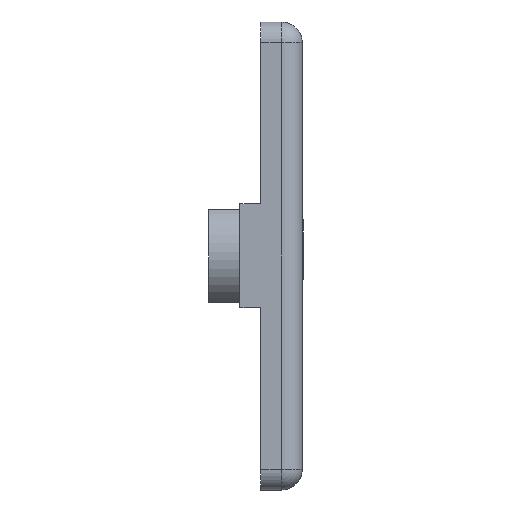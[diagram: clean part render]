
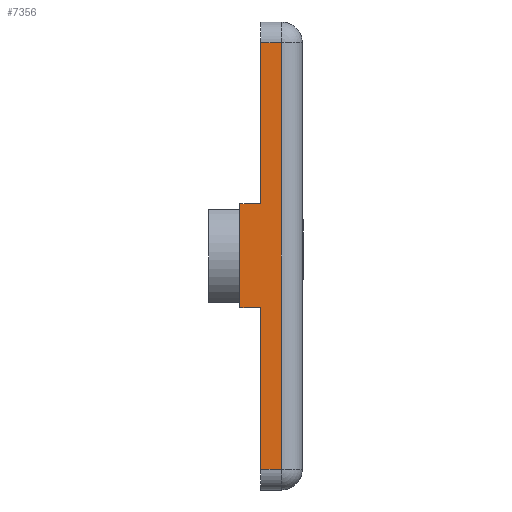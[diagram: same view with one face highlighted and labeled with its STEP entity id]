
A CAD part, left-side view. The second image highlights one B-rep face of the part: STEP entity #7356.
In plain terms, the highlighted planar face has unit normal (-1, 0, 0).
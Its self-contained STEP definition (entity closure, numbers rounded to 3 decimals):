
#56 = ORIENTED_EDGE ( 'NONE', *, *, #1389, .T. ) ;
#71 = DIRECTION ( 'NONE',  ( 0., 0., 1. ) ) ;
#282 = LINE ( 'NONE', #4797, #7182 ) ;
#400 = LINE ( 'NONE', #3954, #4058 ) ;
#500 = EDGE_CURVE ( 'NONE', #7240, #3257, #282, .T. ) ;
#506 = DIRECTION ( 'NONE',  ( 0., 0., -1. ) ) ;
#609 = VECTOR ( 'NONE', #1550, 1000. ) ;
#619 = CARTESIAN_POINT ( 'NONE',  ( -45., 4., -20.5 ) ) ;
#686 = CARTESIAN_POINT ( 'NONE',  ( -45., 6., 5. ) ) ;
#798 = CARTESIAN_POINT ( 'NONE',  ( -45., 4., -20.5 ) ) ;
#959 = CARTESIAN_POINT ( 'NONE',  ( -45., 4., 20.5 ) ) ;
#968 = ORIENTED_EDGE ( 'NONE', *, *, #1625, .F. ) ;
#1143 = LINE ( 'NONE', #2355, #7634 ) ;
#1154 = DIRECTION ( 'NONE',  ( 0., 0., 1. ) ) ;
#1389 = EDGE_CURVE ( 'NONE', #3986, #1393, #8030, .T. ) ;
#1393 = VERTEX_POINT ( 'NONE', #5161 ) ;
#1550 = DIRECTION ( 'NONE',  ( 0., 0., 1. ) ) ;
#1574 = CARTESIAN_POINT ( 'NONE',  ( -45., 6., -5. ) ) ;
#1625 = EDGE_CURVE ( 'NONE', #2386, #3496, #400, .T. ) ;
#1935 = DIRECTION ( 'NONE',  ( 0., -1., 0. ) ) ;
#2093 = EDGE_CURVE ( 'NONE', #3986, #3257, #5971, .T. ) ;
#2101 = VERTEX_POINT ( 'NONE', #686 ) ;
#2197 = CARTESIAN_POINT ( 'NONE',  ( -45., 4., -20.5 ) ) ;
#2355 = CARTESIAN_POINT ( 'NONE',  ( -45., 6., 5. ) ) ;
#2386 = VERTEX_POINT ( 'NONE', #6994 ) ;
#2453 = PLANE ( 'NONE',  #5113 ) ;
#2463 = LINE ( 'NONE', #1574, #4174 ) ;
#2576 = CARTESIAN_POINT ( 'NONE',  ( -45., 2., 20.5 ) ) ;
#3136 = VECTOR ( 'NONE', #1154, 1000. ) ;
#3228 = EDGE_CURVE ( 'NONE', #2101, #2386, #1143, .T. ) ;
#3257 = VERTEX_POINT ( 'NONE', #8234 ) ;
#3431 = ORIENTED_EDGE ( 'NONE', *, *, #6455, .T. ) ;
#3496 = VERTEX_POINT ( 'NONE', #959 ) ;
#3614 = CARTESIAN_POINT ( 'NONE',  ( -45., 6., -5. ) ) ;
#3725 = CARTESIAN_POINT ( 'NONE',  ( -45., 2., -20.5 ) ) ;
#3735 = FACE_OUTER_BOUND ( 'NONE', #7637, .T. ) ;
#3851 = ORIENTED_EDGE ( 'NONE', *, *, #3228, .F. ) ;
#3954 = CARTESIAN_POINT ( 'NONE',  ( -45., 4., -20.5 ) ) ;
#3986 = VERTEX_POINT ( 'NONE', #2197 ) ;
#4058 = VECTOR ( 'NONE', #71, 1000. ) ;
#4117 = DIRECTION ( 'NONE',  ( 0., -1., 0. ) ) ;
#4174 = VECTOR ( 'NONE', #5462, 1000. ) ;
#4408 = DIRECTION ( 'NONE',  ( 1., 0., 0. ) ) ;
#4797 = CARTESIAN_POINT ( 'NONE',  ( -45., 6., -5. ) ) ;
#4957 = DIRECTION ( 'NONE',  ( 0., -1., 0. ) ) ;
#5011 = ORIENTED_EDGE ( 'NONE', *, *, #8037, .F. ) ;
#5113 = AXIS2_PLACEMENT_3D ( 'NONE', #8294, #4408, #506 ) ;
#5161 = CARTESIAN_POINT ( 'NONE',  ( -45., 2., -20.5 ) ) ;
#5256 = ORIENTED_EDGE ( 'NONE', *, *, #500, .T. ) ;
#5424 = VECTOR ( 'NONE', #8171, 1000. ) ;
#5462 = DIRECTION ( 'NONE',  ( 0., 0., 1. ) ) ;
#5683 = EDGE_CURVE ( 'NONE', #7240, #2101, #2463, .T. ) ;
#5971 = LINE ( 'NONE', #798, #609 ) ;
#5988 = VERTEX_POINT ( 'NONE', #2576 ) ;
#6296 = VECTOR ( 'NONE', #1935, 1000. ) ;
#6455 = EDGE_CURVE ( 'NONE', #1393, #5988, #7918, .T. ) ;
#6994 = CARTESIAN_POINT ( 'NONE',  ( -45., 4., 5. ) ) ;
#7139 = LINE ( 'NONE', #7502, #5424 ) ;
#7182 = VECTOR ( 'NONE', #4117, 1000. ) ;
#7240 = VERTEX_POINT ( 'NONE', #3614 ) ;
#7356 = ADVANCED_FACE ( 'NONE', ( #3735 ), #2453, .F. ) ;
#7502 = CARTESIAN_POINT ( 'NONE',  ( -45., 4., 20.5 ) ) ;
#7634 = VECTOR ( 'NONE', #4957, 1000. ) ;
#7637 = EDGE_LOOP ( 'NONE', ( #56, #3431, #5011, #968, #3851, #8314, #5256, #8403 ) ) ;
#7918 = LINE ( 'NONE', #3725, #3136 ) ;
#8030 = LINE ( 'NONE', #619, #6296 ) ;
#8037 = EDGE_CURVE ( 'NONE', #3496, #5988, #7139, .T. ) ;
#8171 = DIRECTION ( 'NONE',  ( 0., -1., 0. ) ) ;
#8234 = CARTESIAN_POINT ( 'NONE',  ( -45., 4., -5. ) ) ;
#8294 = CARTESIAN_POINT ( 'NONE',  ( -45., 4., -20.5 ) ) ;
#8314 = ORIENTED_EDGE ( 'NONE', *, *, #5683, .F. ) ;
#8403 = ORIENTED_EDGE ( 'NONE', *, *, #2093, .F. ) ;
